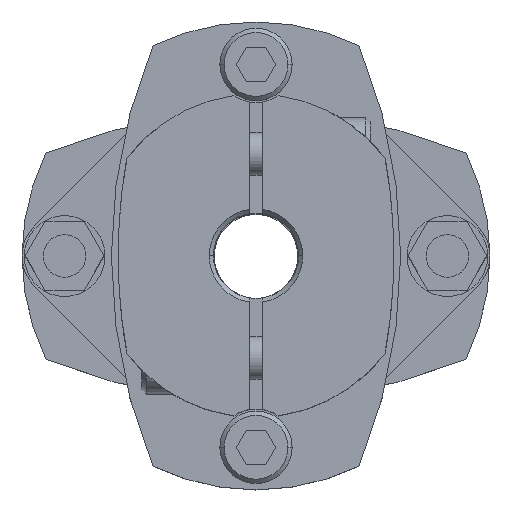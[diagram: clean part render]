
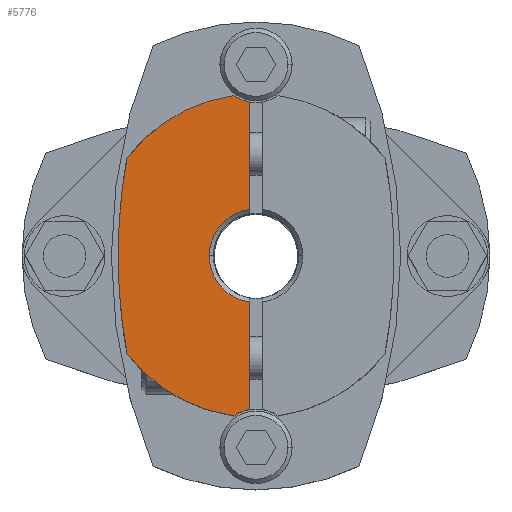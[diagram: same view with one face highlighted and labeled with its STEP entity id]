
A CAD part, top view. The second image highlights one B-rep face of the part: STEP entity #5776.
In plain terms, the highlighted planar face has unit normal (0, 0, 1).
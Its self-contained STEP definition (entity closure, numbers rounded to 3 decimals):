
#855=CARTESIAN_POINT('',(-5.5,0.,22.4));
#856=VERTEX_POINT('',#855);
#865=CARTESIAN_POINT('',(-0.75,-5.449,22.4));
#866=VERTEX_POINT('',#865);
#867=CARTESIAN_POINT('',(0.,0.,22.4));
#868=DIRECTION('',(0.0,0.0,1.0));
#869=DIRECTION('',(1.0,0.0,0.0));
#870=AXIS2_PLACEMENT_3D('',#867,#868,#869);
#871=CIRCLE('',#870,5.5);
#872=EDGE_CURVE('',#856,#866,#871,.T.);
#1231=CARTESIAN_POINT('',(-16.2,0.,22.4));
#1232=VERTEX_POINT('',#1231);
#1340=CARTESIAN_POINT('',(-15.173,-11.435,22.4));
#1341=VERTEX_POINT('',#1340);
#1348=CARTESIAN_POINT('',(48.,0.,22.4));
#1349=DIRECTION('',(0.0,0.0,-1.0));
#1350=DIRECTION('',(-1.0,0.0,0.0));
#1351=AXIS2_PLACEMENT_3D('',#1348,#1349,#1350);
#1352=CIRCLE('',#1351,64.2);
#1353=EDGE_CURVE('',#1341,#1232,#1352,.T.);
#4391=CARTESIAN_POINT('',(-2.593,-18.822,22.4));
#4392=VERTEX_POINT('',#4391);
#4399=CARTESIAN_POINT('',(0.,0.,22.4));
#4400=DIRECTION('',(0.0,0.0,-1.0));
#4401=DIRECTION('',(-1.0,0.0,0.0));
#4402=AXIS2_PLACEMENT_3D('',#4399,#4400,#4401);
#4403=CIRCLE('',#4402,19.);
#4404=EDGE_CURVE('',#4392,#1341,#4403,.T.);
#4617=CARTESIAN_POINT('',(-15.173,11.435,22.4));
#4618=VERTEX_POINT('',#4617);
#4619=CARTESIAN_POINT('',(48.,0.,22.4));
#4620=DIRECTION('',(0.0,0.0,-1.0));
#4621=DIRECTION('',(-1.0,0.0,0.0));
#4622=AXIS2_PLACEMENT_3D('',#4619,#4620,#4621);
#4623=CIRCLE('',#4622,64.2);
#4624=EDGE_CURVE('',#1232,#4618,#4623,.T.);
#5305=CARTESIAN_POINT('',(-0.75,-18.063,22.4));
#5306=VERTEX_POINT('',#5305);
#5313=CARTESIAN_POINT('',(0.,-22.5,22.4));
#5314=DIRECTION('',(0.0,0.0,-1.0));
#5315=DIRECTION('',(-1.0,0.0,0.0));
#5316=AXIS2_PLACEMENT_3D('',#5313,#5314,#5315);
#5317=CIRCLE('',#5316,4.5);
#5318=EDGE_CURVE('',#4392,#5306,#5317,.T.);
#5330=CARTESIAN_POINT('',(-0.75,18.063,22.4));
#5331=VERTEX_POINT('',#5330);
#5347=CARTESIAN_POINT('',(-2.593,18.822,22.4));
#5348=VERTEX_POINT('',#5347);
#5355=CARTESIAN_POINT('',(0.,22.5,22.4));
#5356=DIRECTION('',(0.0,0.0,-1.0));
#5357=DIRECTION('',(-1.0,0.0,0.0));
#5358=AXIS2_PLACEMENT_3D('',#5355,#5356,#5357);
#5359=CIRCLE('',#5358,4.5);
#5360=EDGE_CURVE('',#5331,#5348,#5359,.T.);
#5698=CARTESIAN_POINT('',(-0.75,5.449,22.4));
#5699=VERTEX_POINT('',#5698);
#5700=CARTESIAN_POINT('',(-0.75,5.449,22.4));
#5701=DIRECTION('',(0.0,1.0,0.0));
#5702=VECTOR('',#5701,12.614);
#5703=LINE('',#5700,#5702);
#5704=EDGE_CURVE('',#5699,#5331,#5703,.T.);
#5742=CARTESIAN_POINT('',(0.,0.,22.4));
#5743=DIRECTION('',(0.0,0.0,1.0));
#5744=DIRECTION('',(-1.0,0.0,0.0));
#5745=AXIS2_PLACEMENT_3D('',#5742,#5743,#5744);
#5746=PLANE('',#5745);
#5747=ORIENTED_EDGE('',*,*,#5318,.T.);
#5748=CARTESIAN_POINT('',(-0.75,-18.063,22.4));
#5749=DIRECTION('',(0.0,1.0,0.0));
#5750=VECTOR('',#5749,12.614);
#5751=LINE('',#5748,#5750);
#5752=EDGE_CURVE('',#5306,#866,#5751,.T.);
#5753=ORIENTED_EDGE('',*,*,#5752,.T.);
#5754=ORIENTED_EDGE('',*,*,#872,.F.);
#5755=CARTESIAN_POINT('',(0.,0.,22.4));
#5756=DIRECTION('',(0.0,0.0,1.0));
#5757=DIRECTION('',(1.0,0.0,0.0));
#5758=AXIS2_PLACEMENT_3D('',#5755,#5756,#5757);
#5759=CIRCLE('',#5758,5.5);
#5760=EDGE_CURVE('',#5699,#856,#5759,.T.);
#5761=ORIENTED_EDGE('',*,*,#5760,.F.);
#5762=ORIENTED_EDGE('',*,*,#5704,.T.);
#5763=ORIENTED_EDGE('',*,*,#5360,.T.);
#5764=CARTESIAN_POINT('',(0.,0.,22.4));
#5765=DIRECTION('',(0.0,0.0,-1.0));
#5766=DIRECTION('',(-1.0,0.0,0.0));
#5767=AXIS2_PLACEMENT_3D('',#5764,#5765,#5766);
#5768=CIRCLE('',#5767,19.);
#5769=EDGE_CURVE('',#4618,#5348,#5768,.T.);
#5770=ORIENTED_EDGE('',*,*,#5769,.F.);
#5771=ORIENTED_EDGE('',*,*,#4624,.F.);
#5772=ORIENTED_EDGE('',*,*,#1353,.F.);
#5773=ORIENTED_EDGE('',*,*,#4404,.F.);
#5774=EDGE_LOOP('',(#5747,#5753,#5754,#5761,#5762,#5763,#5770,#5771,#5772,#5773));
#5775=FACE_OUTER_BOUND('',#5774,.T.);
#5776=ADVANCED_FACE('',(#5775),#5746,.T.);
